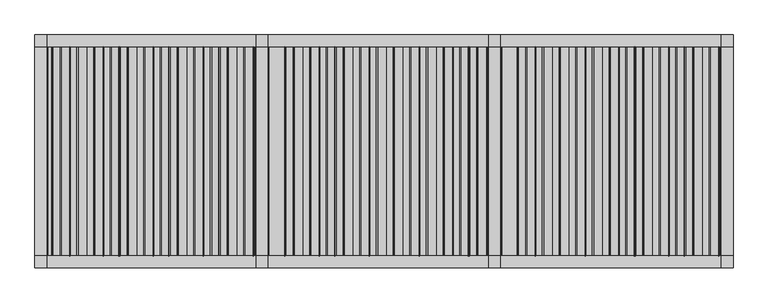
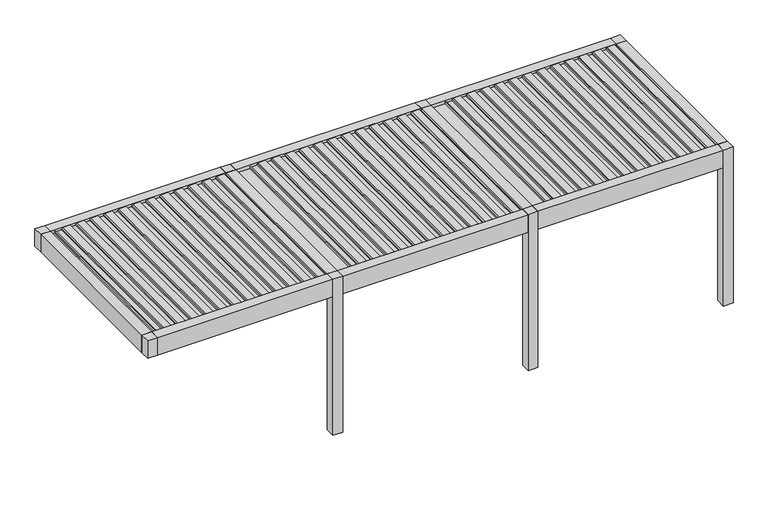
"""IFC4 building model written with IfcOpenShell, lengths in millimetres: proxy geometry, Renson_Amani_Patio_Cover : Renson_Amani_Patio_Cover."""

from ifc_helpers import new_model, si_unit, point, frame, frame_2d, origin, origin_with_axes, place, context, project, spatial, polyline, circle_curve, trimmed, segment, composite_curve, outline, extrude, source, transform, mapped, element, save


def generic_models_6e23cace(model_context):
    return source(origin(), model_context, "Body", "SweptSolid", [
        extrude(outline(composite_curve([segment(polyline([(2483.35, 7073.7289238), (2511.01198, 7076.1490335), (2512.3970364, 7104.984284), (2531.8911096, 7101.5469529), (2526.6075693, 6991.549838)]), True, "CONTINUOUS"), segment(trimmed(circle_curve(frame_2d((2511.6248435, 6992.26951)), 15.0), [point((2526.6075693, 6991.549838))], [point((2514.2295662, 6977.4973937))], False, "CARTESIAN"), True, "CONTINUOUS"), segment(polyline([(2514.2295662, 6977.4973937), (2495.0, 6974.1067023), (2495.0, 6886.3709263), (2512.0788237, 6883.3594689), (2511.3450182, 6868.0824984), (2483.35, 6865.6332517), (2483.35, 7073.7289238)]), True, "CONTINUOUS")], self_intersect=False)), frame((0.0, -1350.0, 0.0), z_axis=(0.0, 1.0, 0.0), x_axis=(0.0, 0.0, 1.0)), (0.0, 0.0, 1.0), 2700.0),
        extrude(outline(composite_curve([segment(polyline([(2483.35, 6858.7132078), (2511.01198, 6861.1333174), (2512.3970364, 6889.9685679), (2531.8911096, 6886.5312368), (2526.6075693, 6776.534122)]), True, "CONTINUOUS"), segment(trimmed(circle_curve(frame_2d((2511.6248435, 6777.2537939)), 15.0), [point((2526.6075693, 6776.534122))], [point((2514.2295662, 6762.4816776))], False, "CARTESIAN"), True, "CONTINUOUS"), segment(polyline([(2514.2295662, 6762.4816776), (2495.0, 6759.0909863), (2495.0, 6671.3552102), (2512.0788237, 6668.3437528), (2511.3450182, 6653.0667824), (2483.35, 6650.6175356), (2483.35, 6858.7132078)]), True, "CONTINUOUS")], self_intersect=False)), frame((0.0, -1350.0, 0.0), z_axis=(0.0, 1.0, 0.0), x_axis=(0.0, 0.0, 1.0)), (0.0, 0.0, 1.0), 2700.0),
        extrude(outline(composite_curve([segment(polyline([(2483.35, 6643.6974917), (2511.01198, 6646.1176014), (2512.3970364, 6674.9528519), (2531.8911096, 6671.5155208), (2526.6075693, 6561.5184059)]), True, "CONTINUOUS"), segment(trimmed(circle_curve(frame_2d((2511.6248435, 6562.2380779)), 15.0), [point((2526.6075693, 6561.5184059))], [point((2514.2295662, 6547.4659616))], False, "CARTESIAN"), True, "CONTINUOUS"), segment(polyline([(2514.2295662, 6547.4659616), (2495.0, 6544.0752702), (2495.0, 6456.3394942), (2512.0788237, 6453.3280368), (2511.3450182, 6438.0510663), (2483.35, 6435.6018196), (2483.35, 6643.6974917)]), True, "CONTINUOUS")], self_intersect=False)), frame((0.0, -1350.0, 0.0), z_axis=(0.0, 1.0, 0.0), x_axis=(0.0, 0.0, 1.0)), (0.0, 0.0, 1.0), 2700.0),
        extrude(outline(composite_curve([segment(polyline([(2483.35, 6428.6817757), (2511.01198, 6431.1018854), (2512.3970364, 6459.9371358), (2531.8911096, 6456.4998047), (2526.6075693, 6346.5026899)]), True, "CONTINUOUS"), segment(trimmed(circle_curve(frame_2d((2511.6248435, 6347.2223618)), 15.0), [point((2526.6075693, 6346.5026899))], [point((2514.2295662, 6332.4502455))], False, "CARTESIAN"), True, "CONTINUOUS"), segment(polyline([(2514.2295662, 6332.4502455), (2495.0, 6329.0595542), (2495.0, 6241.3237782), (2512.0788237, 6238.3123207), (2511.3450182, 6223.0353503), (2483.35, 6220.5861035), (2483.35, 6428.6817757)]), True, "CONTINUOUS")], self_intersect=False)), frame((0.0, -1350.0, 0.0), z_axis=(0.0, 1.0, 0.0), x_axis=(0.0, 0.0, 1.0)), (0.0, 0.0, 1.0), 2700.0),
        extrude(outline(composite_curve([segment(polyline([(2483.35, 6213.6660597), (2511.01198, 6216.0861693), (2512.3970364, 6244.9214198), (2531.8911096, 6241.4840887), (2526.6075693, 6131.4869738)]), True, "CONTINUOUS"), segment(trimmed(circle_curve(frame_2d((2511.6248435, 6132.2066458)), 15.0), [point((2526.6075693, 6131.4869738))], [point((2514.2295662, 6117.4345295))], False, "CARTESIAN"), True, "CONTINUOUS"), segment(polyline([(2514.2295662, 6117.4345295), (2495.0, 6114.0438381), (2495.0, 6026.3080621), (2512.0788237, 6023.2966047), (2511.3450182, 6008.0196342), (2483.35, 6005.5703875), (2483.35, 6213.6660597)]), True, "CONTINUOUS")], self_intersect=False)), frame((0.0, -1350.0, 0.0), z_axis=(0.0, 1.0, 0.0), x_axis=(0.0, 0.0, 1.0)), (0.0, 0.0, 1.0), 2700.0),
        extrude(outline(composite_curve([segment(polyline([(2483.35, 5998.6503436), (2511.01198, 6001.0704533), (2512.3970364, 6029.9057037), (2531.8911096, 6026.4683726), (2526.6075693, 5916.4712578)]), True, "CONTINUOUS"), segment(trimmed(circle_curve(frame_2d((2511.6248435, 5917.1909297)), 15.0), [point((2526.6075693, 5916.4712578))], [point((2514.2295662, 5902.4188134))], False, "CARTESIAN"), True, "CONTINUOUS"), segment(polyline([(2514.2295662, 5902.4188134), (2495.0, 5899.0281221), (2495.0, 5811.2923461), (2512.0788237, 5808.2808886), (2511.3450182, 5793.0039182), (2483.35, 5790.5546714), (2483.35, 5998.6503436)]), True, "CONTINUOUS")], self_intersect=False)), frame((0.0, -1350.0, 0.0), z_axis=(0.0, 1.0, 0.0), x_axis=(0.0, 0.0, 1.0)), (0.0, 0.0, 1.0), 2700.0),
        extrude(outline(composite_curve([segment(polyline([(2483.35, 5783.6346276), (2511.01198, 5786.0547372), (2512.3970364, 5814.8899877), (2531.8911096, 5811.4526566), (2526.6075693, 5701.4555418)]), True, "CONTINUOUS"), segment(trimmed(circle_curve(frame_2d((2511.6248435, 5702.1752137)), 15.0), [point((2526.6075693, 5701.4555418))], [point((2514.2295662, 5687.4030974))], False, "CARTESIAN"), True, "CONTINUOUS"), segment(polyline([(2514.2295662, 5687.4030974), (2495.0, 5684.012406), (2495.0, 5596.27663), (2512.0788237, 5593.2651726), (2511.3450182, 5577.9882021), (2483.35, 5575.5389554), (2483.35, 5783.6346276)]), True, "CONTINUOUS")], self_intersect=False)), frame((0.0, -1350.0, 0.0), z_axis=(0.0, 1.0, 0.0), x_axis=(0.0, 0.0, 1.0)), (0.0, 0.0, 1.0), 2700.0),
        extrude(outline(composite_curve([segment(polyline([(2483.35, 5568.6189115), (2511.01198, 5571.0390212), (2512.3970364, 5599.8742716), (2531.8911096, 5596.4369406), (2526.6075693, 5486.4398257)]), True, "CONTINUOUS"), segment(trimmed(circle_curve(frame_2d((2511.6248435, 5487.1594976)), 15.0), [point((2526.6075693, 5486.4398257))], [point((2514.2295662, 5472.3873813))], False, "CARTESIAN"), True, "CONTINUOUS"), segment(polyline([(2514.2295662, 5472.3873813), (2495.0, 5468.99669), (2495.0, 5381.260914), (2512.0788237, 5378.2494566), (2511.3450182, 5362.9724861), (2483.35, 5360.5232394), (2483.35, 5568.6189115)]), True, "CONTINUOUS")], self_intersect=False)), frame((0.0, -1350.0, 0.0), z_axis=(0.0, 1.0, 0.0), x_axis=(0.0, 0.0, 1.0)), (0.0, 0.0, 1.0), 2700.0),
        extrude(outline(composite_curve([segment(polyline([(2483.35, 5353.6031955), (2511.01198, 5356.0233051), (2512.3970364, 5384.8585556), (2531.8911096, 5381.4212245), (2526.6075693, 5271.4241097)]), True, "CONTINUOUS"), segment(trimmed(circle_curve(frame_2d((2511.6248435, 5272.1437816)), 15.0), [point((2526.6075693, 5271.4241097))], [point((2514.2295662, 5257.3716653))], False, "CARTESIAN"), True, "CONTINUOUS"), segment(polyline([(2514.2295662, 5257.3716653), (2495.0, 5253.980974), (2495.0, 5166.2451979), (2512.0788237, 5163.2337405), (2511.3450182, 5147.95677), (2483.35, 5145.5075233), (2483.35, 5353.6031955)]), True, "CONTINUOUS")], self_intersect=False)), frame((0.0, -1350.0, 0.0), z_axis=(0.0, 1.0, 0.0), x_axis=(0.0, 0.0, 1.0)), (0.0, 0.0, 1.0), 2700.0),
        extrude(outline(composite_curve([segment(polyline([(2483.35, 5138.5874794), (2511.01198, 5141.0075891), (2512.3970364, 5169.8428395), (2531.8911096, 5166.4055085), (2526.6075693, 5056.4083936)]), True, "CONTINUOUS"), segment(trimmed(circle_curve(frame_2d((2511.6248435, 5057.1280655)), 15.0), [point((2526.6075693, 5056.4083936))], [point((2514.2295662, 5042.3559492))], False, "CARTESIAN"), True, "CONTINUOUS"), segment(polyline([(2514.2295662, 5042.3559492), (2495.0, 5038.9652579), (2495.0, 4951.2294819), (2512.0788237, 4948.2180245), (2511.3450182, 4932.941054), (2483.35, 4930.4918073), (2483.35, 5138.5874794)]), True, "CONTINUOUS")], self_intersect=False)), frame((0.0, -1350.0, 0.0), z_axis=(0.0, 1.0, 0.0), x_axis=(0.0, 0.0, 1.0)), (0.0, 0.0, 1.0), 2700.0),
        extrude(outline(composite_curve([segment(polyline([(2483.35, 7288.7446399), (2511.01198, 7291.1647495), (2512.3970364, 7320.0), (2531.8911096, 7316.5626689), (2526.6075693, 7206.5655541)]), True, "CONTINUOUS"), segment(trimmed(circle_curve(frame_2d((2511.6248435, 7207.285226)), 15.0), [point((2526.6075693, 7206.5655541))], [point((2514.2295662, 7192.5131097))], False, "CARTESIAN"), True, "CONTINUOUS"), segment(polyline([(2514.2295662, 7192.5131097), (2495.0, 7189.1224184), (2495.0, 7101.3866423), (2512.0788237, 7098.3751849), (2511.3450182, 7083.0982144), (2483.35, 7080.6489677), (2483.35, 7288.7446399)]), True, "CONTINUOUS")], self_intersect=False)), frame((0.0, -1350.0, 0.0), z_axis=(0.0, 1.0, 0.0), x_axis=(0.0, 0.0, 1.0)), (0.0, 0.0, 1.0), 2700.0),
        extrude(outline(composite_curve([segment(polyline([(2483.35, 4923.5717634), (2511.01198, 4925.991873), (2512.3970364, 4954.8271235), (2531.8911096, 4951.3897924), (2526.6075693, 4841.3926776)]), True, "CONTINUOUS"), segment(trimmed(circle_curve(frame_2d((2511.6248435, 4842.1123495)), 15.0), [point((2526.6075693, 4841.3926776))], [point((2514.2295662, 4827.3402332))], False, "CARTESIAN"), True, "CONTINUOUS"), segment(polyline([(2514.2295662, 4827.3402332), (2495.0, 4823.9495419), (2495.0, 4736.2137658), (2512.0788237, 4733.2023084), (2511.3450182, 4717.9253379), (2483.35, 4715.4760912), (2483.35, 4923.5717634)]), True, "CONTINUOUS")], self_intersect=False)), frame((0.0, -1350.0, 0.0), z_axis=(0.0, 1.0, 0.0), x_axis=(0.0, 0.0, 1.0)), (0.0, 0.0, 1.0), 2700.0),
        extrude(outline(composite_curve([segment(polyline([(2483.35, 4073.7289238), (2511.01198, 4076.1490335), (2512.3970364, 4104.984284), (2531.8911096, 4101.5469529), (2526.6075693, 3991.549838)]), True, "CONTINUOUS"), segment(trimmed(circle_curve(frame_2d((2511.6248435, 3992.26951)), 15.0), [point((2526.6075693, 3991.549838))], [point((2514.2295662, 3977.4973937))], False, "CARTESIAN"), True, "CONTINUOUS"), segment(polyline([(2514.2295662, 3977.4973937), (2495.0, 3974.1067023), (2495.0, 3886.3709263), (2512.0788237, 3883.3594689), (2511.3450182, 3868.0824984), (2483.35, 3865.6332517), (2483.35, 4073.7289238)]), True, "CONTINUOUS")], self_intersect=False)), frame((0.0, -1350.0, 0.0), z_axis=(0.0, 1.0, 0.0), x_axis=(0.0, 0.0, 1.0)), (0.0, 0.0, 1.0), 2700.0),
        extrude(outline(composite_curve([segment(polyline([(2483.35, 3858.7132078), (2511.01198, 3861.1333174), (2512.3970364, 3889.9685679), (2531.8911096, 3886.5312368), (2526.6075693, 3776.534122)]), True, "CONTINUOUS"), segment(trimmed(circle_curve(frame_2d((2511.6248435, 3777.2537939)), 15.0), [point((2526.6075693, 3776.534122))], [point((2514.2295662, 3762.4816776))], False, "CARTESIAN"), True, "CONTINUOUS"), segment(polyline([(2514.2295662, 3762.4816776), (2495.0, 3759.0909863), (2495.0, 3671.3552102), (2512.0788237, 3668.3437528), (2511.3450182, 3653.0667824), (2483.35, 3650.6175356), (2483.35, 3858.7132078)]), True, "CONTINUOUS")], self_intersect=False)), frame((0.0, -1350.0, 0.0), z_axis=(0.0, 1.0, 0.0), x_axis=(0.0, 0.0, 1.0)), (0.0, 0.0, 1.0), 2700.0),
        extrude(outline(composite_curve([segment(polyline([(2483.35, 3643.6974917), (2511.01198, 3646.1176014), (2512.3970364, 3674.9528519), (2531.8911096, 3671.5155208), (2526.6075693, 3561.5184059)]), True, "CONTINUOUS"), segment(trimmed(circle_curve(frame_2d((2511.6248435, 3562.2380779)), 15.0), [point((2526.6075693, 3561.5184059))], [point((2514.2295662, 3547.4659616))], False, "CARTESIAN"), True, "CONTINUOUS"), segment(polyline([(2514.2295662, 3547.4659616), (2495.0, 3544.0752702), (2495.0, 3456.3394942), (2512.0788237, 3453.3280368), (2511.3450182, 3438.0510663), (2483.35, 3435.6018196), (2483.35, 3643.6974917)]), True, "CONTINUOUS")], self_intersect=False)), frame((0.0, -1350.0, 0.0), z_axis=(0.0, 1.0, 0.0), x_axis=(0.0, 0.0, 1.0)), (0.0, 0.0, 1.0), 2700.0),
        extrude(outline(composite_curve([segment(polyline([(2483.35, 3428.6817757), (2511.01198, 3431.1018854), (2512.3970364, 3459.9371358), (2531.8911096, 3456.4998047), (2526.6075693, 3346.5026899)]), True, "CONTINUOUS"), segment(trimmed(circle_curve(frame_2d((2511.6248435, 3347.2223618)), 15.0), [point((2526.6075693, 3346.5026899))], [point((2514.2295662, 3332.4502455))], False, "CARTESIAN"), True, "CONTINUOUS"), segment(polyline([(2514.2295662, 3332.4502455), (2495.0, 3329.0595542), (2495.0, 3241.3237782), (2512.0788237, 3238.3123207), (2511.3450182, 3223.0353503), (2483.35, 3220.5861035), (2483.35, 3428.6817757)]), True, "CONTINUOUS")], self_intersect=False)), frame((0.0, -1350.0, 0.0), z_axis=(0.0, 1.0, 0.0), x_axis=(0.0, 0.0, 1.0)), (0.0, 0.0, 1.0), 2700.0),
        extrude(outline(composite_curve([segment(polyline([(2483.35, 3213.6660597), (2511.01198, 3216.0861693), (2512.3970364, 3244.9214198), (2531.8911096, 3241.4840887), (2526.6075693, 3131.4869738)]), True, "CONTINUOUS"), segment(trimmed(circle_curve(frame_2d((2511.6248435, 3132.2066458)), 15.0), [point((2526.6075693, 3131.4869738))], [point((2514.2295662, 3117.4345295))], False, "CARTESIAN"), True, "CONTINUOUS"), segment(polyline([(2514.2295662, 3117.4345295), (2495.0, 3114.0438381), (2495.0, 3026.3080621), (2512.0788237, 3023.2966047), (2511.3450182, 3008.0196342), (2483.35, 3005.5703875), (2483.35, 3213.6660597)]), True, "CONTINUOUS")], self_intersect=False)), frame((0.0, -1350.0, 0.0), z_axis=(0.0, 1.0, 0.0), x_axis=(0.0, 0.0, 1.0)), (0.0, 0.0, 1.0), 2700.0),
        extrude(outline(composite_curve([segment(polyline([(2483.35, 2998.6503436), (2511.01198, 3001.0704533), (2512.3970364, 3029.9057037), (2531.8911096, 3026.4683726), (2526.6075693, 2916.4712578)]), True, "CONTINUOUS"), segment(trimmed(circle_curve(frame_2d((2511.6248435, 2917.1909297)), 15.0), [point((2526.6075693, 2916.4712578))], [point((2514.2295662, 2902.4188134))], False, "CARTESIAN"), True, "CONTINUOUS"), segment(polyline([(2514.2295662, 2902.4188134), (2495.0, 2899.0281221), (2495.0, 2811.2923461), (2512.0788237, 2808.2808886), (2511.3450182, 2793.0039182), (2483.35, 2790.5546714), (2483.35, 2998.6503436)]), True, "CONTINUOUS")], self_intersect=False)), frame((0.0, -1350.0, 0.0), z_axis=(0.0, 1.0, 0.0), x_axis=(0.0, 0.0, 1.0)), (0.0, 0.0, 1.0), 2700.0),
        extrude(outline(composite_curve([segment(polyline([(2483.35, 2783.6346276), (2511.01198, 2786.0547372), (2512.3970364, 2814.8899877), (2531.8911096, 2811.4526566), (2526.6075693, 2701.4555418)]), True, "CONTINUOUS"), segment(trimmed(circle_curve(frame_2d((2511.6248435, 2702.1752137)), 15.0), [point((2526.6075693, 2701.4555418))], [point((2514.2295662, 2687.4030974))], False, "CARTESIAN"), True, "CONTINUOUS"), segment(polyline([(2514.2295662, 2687.4030974), (2495.0, 2684.012406), (2495.0, 2596.27663), (2512.0788237, 2593.2651726), (2511.3450182, 2577.9882021), (2483.35, 2575.5389554), (2483.35, 2783.6346276)]), True, "CONTINUOUS")], self_intersect=False)), frame((0.0, -1350.0, 0.0), z_axis=(0.0, 1.0, 0.0), x_axis=(0.0, 0.0, 1.0)), (0.0, 0.0, 1.0), 2700.0),
        extrude(outline(composite_curve([segment(polyline([(2483.35, 2568.6189115), (2511.01198, 2571.0390212), (2512.3970364, 2599.8742716), (2531.8911096, 2596.4369406), (2526.6075693, 2486.4398257)]), True, "CONTINUOUS"), segment(trimmed(circle_curve(frame_2d((2511.6248435, 2487.1594976)), 15.0), [point((2526.6075693, 2486.4398257))], [point((2514.2295662, 2472.3873813))], False, "CARTESIAN"), True, "CONTINUOUS"), segment(polyline([(2514.2295662, 2472.3873813), (2495.0, 2468.99669), (2495.0, 2381.260914), (2512.0788237, 2378.2494566), (2511.3450182, 2362.9724861), (2483.35, 2360.5232394), (2483.35, 2568.6189115)]), True, "CONTINUOUS")], self_intersect=False)), frame((0.0, -1350.0, 0.0), z_axis=(0.0, 1.0, 0.0), x_axis=(0.0, 0.0, 1.0)), (0.0, 0.0, 1.0), 2700.0),
        extrude(outline(composite_curve([segment(polyline([(2483.35, 2353.6031955), (2511.01198, 2356.0233051), (2512.3970364, 2384.8585556), (2531.8911096, 2381.4212245), (2526.6075693, 2271.4241097)]), True, "CONTINUOUS"), segment(trimmed(circle_curve(frame_2d((2511.6248435, 2272.1437816)), 15.0), [point((2526.6075693, 2271.4241097))], [point((2514.2295662, 2257.3716653))], False, "CARTESIAN"), True, "CONTINUOUS"), segment(polyline([(2514.2295662, 2257.3716653), (2495.0, 2253.980974), (2495.0, 2166.2451979), (2512.0788237, 2163.2337405), (2511.3450182, 2147.95677), (2483.35, 2145.5075233), (2483.35, 2353.6031955)]), True, "CONTINUOUS")], self_intersect=False)), frame((0.0, -1350.0, 0.0), z_axis=(0.0, 1.0, 0.0), x_axis=(0.0, 0.0, 1.0)), (0.0, 0.0, 1.0), 2700.0),
        extrude(outline(composite_curve([segment(polyline([(2483.35, 2138.5874794), (2511.01198, 2141.0075891), (2512.3970364, 2169.8428395), (2531.8911096, 2166.4055085), (2526.6075693, 2056.4083936)]), True, "CONTINUOUS"), segment(trimmed(circle_curve(frame_2d((2511.6248435, 2057.1280655)), 15.0), [point((2526.6075693, 2056.4083936))], [point((2514.2295662, 2042.3559492))], False, "CARTESIAN"), True, "CONTINUOUS"), segment(polyline([(2514.2295662, 2042.3559492), (2495.0, 2038.9652579), (2495.0, 1951.2294819), (2512.0788237, 1948.2180245), (2511.3450182, 1932.941054), (2483.35, 1930.4918073), (2483.35, 2138.5874794)]), True, "CONTINUOUS")], self_intersect=False)), frame((0.0, -1350.0, 0.0), z_axis=(0.0, 1.0, 0.0), x_axis=(0.0, 0.0, 1.0)), (0.0, 0.0, 1.0), 2700.0),
        extrude(outline(composite_curve([segment(polyline([(2483.35, 4288.7446399), (2511.01198, 4291.1647495), (2512.3970364, 4320.0), (2531.8911096, 4316.5626689), (2526.6075693, 4206.5655541)]), True, "CONTINUOUS"), segment(trimmed(circle_curve(frame_2d((2511.6248435, 4207.285226)), 15.0), [point((2526.6075693, 4206.5655541))], [point((2514.2295662, 4192.5131097))], False, "CARTESIAN"), True, "CONTINUOUS"), segment(polyline([(2514.2295662, 4192.5131097), (2495.0, 4189.1224184), (2495.0, 4101.3866423), (2512.0788237, 4098.3751849), (2511.3450182, 4083.0982144), (2483.35, 4080.6489677), (2483.35, 4288.7446399)]), True, "CONTINUOUS")], self_intersect=False)), frame((0.0, -1350.0, 0.0), z_axis=(0.0, 1.0, 0.0), x_axis=(0.0, 0.0, 1.0)), (0.0, 0.0, 1.0), 2700.0),
        extrude(outline(composite_curve([segment(polyline([(2483.35, 1923.5717634), (2511.01198, 1925.991873), (2512.3970364, 1954.8271235), (2531.8911096, 1951.3897924), (2526.6075693, 1841.3926776)]), True, "CONTINUOUS"), segment(trimmed(circle_curve(frame_2d((2511.6248435, 1842.1123495)), 15.0), [point((2526.6075693, 1841.3926776))], [point((2514.2295662, 1827.3402332))], False, "CARTESIAN"), True, "CONTINUOUS"), segment(polyline([(2514.2295662, 1827.3402332), (2495.0, 1823.9495419), (2495.0, 1736.2137658), (2512.0788237, 1733.2023084), (2511.3450182, 1717.9253379), (2483.35, 1715.4760912), (2483.35, 1923.5717634)]), True, "CONTINUOUS")], self_intersect=False)), frame((0.0, -1350.0, 0.0), z_axis=(0.0, 1.0, 0.0), x_axis=(0.0, 0.0, 1.0)), (0.0, 0.0, 1.0), 2700.0),
        extrude(outline(composite_curve([segment(polyline([(2483.35, 1073.7289238), (2511.01198, 1076.1490335), (2512.3970364, 1104.984284), (2531.8911096, 1101.5469529), (2526.6075693, 991.549838)]), True, "CONTINUOUS"), segment(trimmed(circle_curve(frame_2d((2511.6248435, 992.26951)), 15.0), [point((2526.6075693, 991.549838))], [point((2514.2295662, 977.4973937))], False, "CARTESIAN"), True, "CONTINUOUS"), segment(polyline([(2514.2295662, 977.4973937), (2495.0, 974.1067023), (2495.0, 886.3709263), (2512.0788237, 883.3594689), (2511.3450182, 868.0824984), (2483.35, 865.6332517), (2483.35, 1073.7289238)]), True, "CONTINUOUS")], self_intersect=False)), frame((0.0, -1350.0, 0.0), z_axis=(0.0, 1.0, 0.0), x_axis=(0.0, 0.0, 1.0)), (0.0, 0.0, 1.0), 2700.0),
        extrude(outline(composite_curve([segment(polyline([(2483.35, 858.7132078), (2511.01198, 861.1333174), (2512.3970364, 889.9685679), (2531.8911096, 886.5312368), (2526.6075693, 776.534122)]), True, "CONTINUOUS"), segment(trimmed(circle_curve(frame_2d((2511.6248435, 777.2537939)), 15.0), [point((2526.6075693, 776.534122))], [point((2514.2295662, 762.4816776))], False, "CARTESIAN"), True, "CONTINUOUS"), segment(polyline([(2514.2295662, 762.4816776), (2495.0, 759.0909863), (2495.0, 671.3552102), (2512.0788237, 668.3437528), (2511.3450182, 653.0667824), (2483.35, 650.6175356), (2483.35, 858.7132078)]), True, "CONTINUOUS")], self_intersect=False)), frame((0.0, -1350.0, 0.0), z_axis=(0.0, 1.0, 0.0), x_axis=(0.0, 0.0, 1.0)), (0.0, 0.0, 1.0), 2700.0),
        extrude(outline(composite_curve([segment(polyline([(2483.35, 643.6974917), (2511.01198, 646.1176014), (2512.3970364, 674.9528519), (2531.8911096, 671.5155208), (2526.6075693, 561.5184059)]), True, "CONTINUOUS"), segment(trimmed(circle_curve(frame_2d((2511.6248435, 562.2380779)), 15.0), [point((2526.6075693, 561.5184059))], [point((2514.2295662, 547.4659616))], False, "CARTESIAN"), True, "CONTINUOUS"), segment(polyline([(2514.2295662, 547.4659616), (2495.0, 544.0752702), (2495.0, 456.3394942), (2512.0788237, 453.3280368), (2511.3450182, 438.0510663), (2483.35, 435.6018196), (2483.35, 643.6974917)]), True, "CONTINUOUS")], self_intersect=False)), frame((0.0, -1350.0, 0.0), z_axis=(0.0, 1.0, 0.0), x_axis=(0.0, 0.0, 1.0)), (0.0, 0.0, 1.0), 2700.0),
        extrude(outline(composite_curve([segment(polyline([(2483.35, 428.6817757), (2511.01198, 431.1018854), (2512.3970364, 459.9371358), (2531.8911096, 456.4998047), (2526.6075693, 346.5026899)]), True, "CONTINUOUS"), segment(trimmed(circle_curve(frame_2d((2511.6248435, 347.2223618)), 15.0), [point((2526.6075693, 346.5026899))], [point((2514.2295662, 332.4502455))], False, "CARTESIAN"), True, "CONTINUOUS"), segment(polyline([(2514.2295662, 332.4502455), (2495.0, 329.0595542), (2495.0, 241.3237782), (2512.0788237, 238.3123207), (2511.3450182, 223.0353503), (2483.35, 220.5861035), (2483.35, 428.6817757)]), True, "CONTINUOUS")], self_intersect=False)), frame((0.0, -1350.0, 0.0), z_axis=(0.0, 1.0, 0.0), x_axis=(0.0, 0.0, 1.0)), (0.0, 0.0, 1.0), 2700.0),
        extrude(outline(composite_curve([segment(polyline([(2483.35, 213.6660597), (2511.01198, 216.0861693), (2512.3970364, 244.9214198), (2531.8911096, 241.4840887), (2526.6075693, 131.4869738)]), True, "CONTINUOUS"), segment(trimmed(circle_curve(frame_2d((2511.6248435, 132.2066458)), 15.0), [point((2526.6075693, 131.4869738))], [point((2514.2295662, 117.4345295))], False, "CARTESIAN"), True, "CONTINUOUS"), segment(polyline([(2514.2295662, 117.4345295), (2495.0, 114.0438381), (2495.0, 26.3080621), (2512.0788237, 23.2966047), (2511.3450182, 8.0196342), (2483.35, 5.5703875), (2483.35, 213.6660597)]), True, "CONTINUOUS")], self_intersect=False)), frame((0.0, -1350.0, 0.0), z_axis=(0.0, 1.0, 0.0), x_axis=(0.0, 0.0, 1.0)), (0.0, 0.0, 1.0), 2700.0),
        extrude(outline(composite_curve([segment(polyline([(2483.35, -1.3496564), (2511.01198, 1.0704533), (2512.3970364, 29.9057037), (2531.8911096, 26.4683726), (2526.6075693, -83.5287422)]), True, "CONTINUOUS"), segment(trimmed(circle_curve(frame_2d((2511.6248435, -82.8090703)), 15.0), [point((2526.6075693, -83.5287422))], [point((2514.2295662, -97.5811866))], False, "CARTESIAN"), True, "CONTINUOUS"), segment(polyline([(2514.2295662, -97.5811866), (2495.0, -100.9718779), (2495.0, -188.7076539), (2512.0788237, -191.7191114), (2511.3450182, -206.9960818), (2483.35, -209.4453286), (2483.35, -1.3496564)]), True, "CONTINUOUS")], self_intersect=False)), frame((0.0, -1350.0, 0.0), z_axis=(0.0, 1.0, 0.0), x_axis=(0.0, 0.0, 1.0)), (0.0, 0.0, 1.0), 2700.0),
        extrude(outline(composite_curve([segment(polyline([(2483.35, -216.3653724), (2511.01198, -213.9452628), (2512.3970364, -185.1100123), (2531.8911096, -188.5473434), (2526.6075693, -298.5444582)]), True, "CONTINUOUS"), segment(trimmed(circle_curve(frame_2d((2511.6248435, -297.8247863)), 15.0), [point((2526.6075693, -298.5444582))], [point((2514.2295662, -312.5969026))], False, "CARTESIAN"), True, "CONTINUOUS"), segment(polyline([(2514.2295662, -312.5969026), (2495.0, -315.987594), (2495.0, -403.72337), (2512.0788237, -406.7348274), (2511.3450182, -422.0117979), (2483.35, -424.4610446), (2483.35, -216.3653724)]), True, "CONTINUOUS")], self_intersect=False)), frame((0.0, -1350.0, 0.0), z_axis=(0.0, 1.0, 0.0), x_axis=(0.0, 0.0, 1.0)), (0.0, 0.0, 1.0), 2700.0),
        extrude(outline(composite_curve([segment(polyline([(2483.35, -431.3810885), (2511.01198, -428.9609788), (2512.3970364, -400.1257284), (2531.8911096, -403.5630594), (2526.6075693, -513.5601743)]), True, "CONTINUOUS"), segment(trimmed(circle_curve(frame_2d((2511.6248435, -512.8405024)), 15.0), [point((2526.6075693, -513.5601743))], [point((2514.2295662, -527.6126187))], False, "CARTESIAN"), True, "CONTINUOUS"), segment(polyline([(2514.2295662, -527.6126187), (2495.0, -531.00331), (2495.0, -618.739086), (2512.0788237, -621.7505434), (2511.3450182, -637.0275139), (2483.35, -639.4767606), (2483.35, -431.3810885)]), True, "CONTINUOUS")], self_intersect=False)), frame((0.0, -1350.0, 0.0), z_axis=(0.0, 1.0, 0.0), x_axis=(0.0, 0.0, 1.0)), (0.0, 0.0, 1.0), 2700.0),
        extrude(outline(composite_curve([segment(polyline([(2483.35, -646.3968045), (2511.01198, -643.9766949), (2512.3970364, -615.1414444), (2531.8911096, -618.5787755), (2526.6075693, -728.5758903)]), True, "CONTINUOUS"), segment(trimmed(circle_curve(frame_2d((2511.6248435, -727.8562184)), 15.0), [point((2526.6075693, -728.5758903))], [point((2514.2295662, -742.6283347))], False, "CARTESIAN"), True, "CONTINUOUS"), segment(polyline([(2514.2295662, -742.6283347), (2495.0, -746.019026), (2495.0, -833.7548021), (2512.0788237, -836.7662595), (2511.3450182, -852.04323), (2483.35, -854.4924767), (2483.35, -646.3968045)]), True, "CONTINUOUS")], self_intersect=False)), frame((0.0, -1350.0, 0.0), z_axis=(0.0, 1.0, 0.0), x_axis=(0.0, 0.0, 1.0)), (0.0, 0.0, 1.0), 2700.0),
        extrude(outline(composite_curve([segment(polyline([(2483.35, -861.4125206), (2511.01198, -858.9924109), (2512.3970364, -830.1571605), (2531.8911096, -833.5944915), (2526.6075693, -943.5916064)]), True, "CONTINUOUS"), segment(trimmed(circle_curve(frame_2d((2511.6248435, -942.8719345)), 15.0), [point((2526.6075693, -943.5916064))], [point((2514.2295662, -957.6440508))], False, "CARTESIAN"), True, "CONTINUOUS"), segment(polyline([(2514.2295662, -957.6440508), (2495.0, -961.0347421), (2495.0, -1048.7705181), (2512.0788237, -1051.7819755), (2511.3450182, -1067.058946), (2483.35, -1069.5081927), (2483.35, -861.4125206)]), True, "CONTINUOUS")], self_intersect=False)), frame((0.0, -1350.0, 0.0), z_axis=(0.0, 1.0, 0.0), x_axis=(0.0, 0.0, 1.0)), (0.0, 0.0, 1.0), 2700.0),
        extrude(outline(composite_curve([segment(polyline([(2483.35, 1288.7446399), (2511.01198, 1291.1647495), (2512.3970364, 1320.0), (2531.8911096, 1316.5626689), (2526.6075693, 1206.5655541)]), True, "CONTINUOUS"), segment(trimmed(circle_curve(frame_2d((2511.6248435, 1207.285226)), 15.0), [point((2526.6075693, 1206.5655541))], [point((2514.2295662, 1192.5131097))], False, "CARTESIAN"), True, "CONTINUOUS"), segment(polyline([(2514.2295662, 1192.5131097), (2495.0, 1189.1224184), (2495.0, 1101.3866423), (2512.0788237, 1098.3751849), (2511.3450182, 1083.0982144), (2483.35, 1080.6489677), (2483.35, 1288.7446399)]), True, "CONTINUOUS")], self_intersect=False)), frame((0.0, -1350.0, 0.0), z_axis=(0.0, 1.0, 0.0), x_axis=(0.0, 0.0, 1.0)), (0.0, 0.0, 1.0), 2700.0),
        extrude(outline(composite_curve([segment(polyline([(2483.35, -1076.4282366), (2511.01198, -1074.008127), (2512.3970364, -1045.1728765), (2531.8911096, -1048.6102076), (2526.6075693, -1158.6073224)]), True, "CONTINUOUS"), segment(trimmed(circle_curve(frame_2d((2511.6248435, -1157.8876505)), 15.0), [point((2526.6075693, -1158.6073224))], [point((2514.2295662, -1172.6597668))], False, "CARTESIAN"), True, "CONTINUOUS"), segment(polyline([(2514.2295662, -1172.6597668), (2495.0, -1176.0504581), (2495.0, -1263.7862342), (2512.0788237, -1266.7976916), (2511.3450182, -1282.0746621), (2483.35, -1284.5239088), (2483.35, -1076.4282366)]), True, "CONTINUOUS")], self_intersect=False)), frame((0.0, -1350.0, 0.0), z_axis=(0.0, 1.0, 0.0), x_axis=(0.0, 0.0, 1.0)), (0.0, 0.0, 1.0), 2700.0),
        extrude(outline(polyline([(7500.0, -1350.0), (7500.0, -1500.0), (7350.0, -1500.0), (7350.0, -1350.0), (7500.0, -1350.0)])), origin_with_axes(), (0.0, 0.0, 1.0), 2535.0),
        extrude(outline(polyline([(4500.0, 1500.0), (4500.0, 1350.0), (4350.0, 1350.0), (4350.0, 1500.0), (4500.0, 1500.0)])), origin_with_axes(), (0.0, 0.0, 1.0), 2535.0),
        extrude(outline(polyline([(7500.0, 1500.0), (7500.0, 1350.0), (7350.0, 1350.0), (7350.0, 1500.0), (7500.0, 1500.0)])), frame((0.0, 0.0, 2250.0), z_axis=(0.0, 0.0, 1.0), x_axis=(1.0, 0.0, 0.0)), (0.0, 0.0, 1.0), 285.0),
        extrude(outline(polyline([(-1350.0, 1500.0), (-1350.0, 1350.0), (-1500.0, 1350.0), (-1500.0, 1500.0), (-1350.0, 1500.0)])), frame((0.0, 0.0, 2250.0), z_axis=(0.0, 0.0, 1.0), x_axis=(1.0, 0.0, 0.0)), (0.0, 0.0, 1.0), 285.0),
        extrude(outline(polyline([(-1350.0, -1500.0), (-1500.0, -1500.0), (-1500.0, -1350.0), (-1350.0, -1350.0), (-1350.0, -1500.0)])), frame((0.0, 0.0, 2250.0), z_axis=(0.0, 0.0, 1.0), x_axis=(1.0, 0.0, 0.0)), (0.0, 0.0, 1.0), 285.0),
        extrude(outline(polyline([(4500.0, -1350.0), (4500.0, -1500.0), (4350.0, -1500.0), (4350.0, -1350.0), (4500.0, -1350.0)])), origin_with_axes(), (0.0, 0.0, 1.0), 2535.0),
        extrude(outline(polyline([(1500.0, -1350.0), (1500.0, -1500.0), (1350.0, -1500.0), (1350.0, -1350.0), (1500.0, -1350.0)])), origin_with_axes(), (0.0, 0.0, 1.0), 2535.0),
        extrude(outline(polyline([(1500.0, 1500.0), (1500.0, 1350.0), (1350.0, 1350.0), (1350.0, 1500.0), (1500.0, 1500.0)])), origin_with_axes(), (0.0, 0.0, 1.0), 2535.0),
        extrude(outline(polyline([(2466.6559373, 4500.0), (2466.6559373, 4710.0), (2480.6555802, 4713.7512887), (2480.6555802, 4520.4059055), (2496.400763, 4505.0), (2504.2449277, 4505.0), (2504.6823598, 4500.0), (2466.6559373, 4500.0)])), frame((0.0, -1350.0, 0.0), z_axis=(0.0, 1.0, 0.0), x_axis=(0.0, 0.0, 1.0)), (0.0, 0.0, 1.0), 2700.0),
        extrude(outline(polyline([(-1350.0, 2535.0), (-1350.0, 2322.0), (-1280.0000001, 2322.0), (-1280.0000001, 2250.0), (-1500.0, 2250.0), (-1500.0, 2535.0), (-1350.0, 2535.0)])), frame((4500.0, 0.0, 0.0), z_axis=(1.0, 0.0, 0.0), x_axis=(0.0, 1.0, 0.0)), (0.0, 0.0, 1.0), 2850.0),
        extrude(outline(polyline([(1500.0, 2250.0), (1280.0000001, 2250.0), (1280.0000001, 2322.0), (1350.0, 2322.0), (1350.0, 2535.0), (1500.0, 2535.0), (1500.0, 2250.0)])), frame((4500.0, 0.0, 0.0), z_axis=(1.0, 0.0, 0.0), x_axis=(0.0, 1.0, 0.0)), (0.0, 0.0, 1.0), 2850.0),
        extrude(outline(polyline([(2535.0, 7500.0), (2535.0, 7350.0), (2504.6823598, 7350.0), (2504.2449277, 7345.0), (2496.400763, 7345.0), (2480.6555802, 7329.2544156), (2480.6555802, 7319.9090324), (2466.6559373, 7323.6603211), (2466.6559373, 7350.0), (2250.0, 7350.0), (2250.0, 7500.0), (2535.0, 7500.0)])), frame((0.0, -1350.0, 0.0), z_axis=(0.0, 1.0, 0.0), x_axis=(0.0, 0.0, 1.0)), (0.0, 0.0, 1.0), 2700.0),
        extrude(outline(polyline([(2466.6559373, 1500.0), (2466.6559373, 1710.0), (2480.6555802, 1713.7512887), (2480.6555802, 1520.4059055), (2496.400763, 1505.0), (2504.2449277, 1505.0), (2504.6823598, 1500.0), (2466.6559373, 1500.0)])), frame((0.0, -1350.0, 0.0), z_axis=(0.0, 1.0, 0.0), x_axis=(0.0, 0.0, 1.0)), (0.0, 0.0, 1.0), 2700.0),
        extrude(outline(polyline([(-1350.0, 2535.0), (-1350.0, 2322.0), (-1280.0000001, 2322.0), (-1280.0000001, 2250.0), (-1500.0, 2250.0), (-1500.0, 2535.0), (-1350.0, 2535.0)])), frame((1500.0, 0.0, 0.0), z_axis=(1.0, 0.0, 0.0), x_axis=(0.0, 1.0, 0.0)), (0.0, 0.0, 1.0), 2850.0),
        extrude(outline(polyline([(1500.0, 2250.0), (1280.0000001, 2250.0), (1280.0000001, 2322.0), (1350.0, 2322.0), (1350.0, 2535.0), (1500.0, 2535.0), (1500.0, 2250.0)])), frame((1500.0, 0.0, 0.0), z_axis=(1.0, 0.0, 0.0), x_axis=(0.0, 1.0, 0.0)), (0.0, 0.0, 1.0), 2850.0),
        extrude(outline(polyline([(2535.0, 4500.0), (2535.0, 4350.0), (2504.6823598, 4350.0), (2504.2449277, 4345.0), (2496.400763, 4345.0), (2480.6555802, 4329.2544156), (2480.6555802, 4319.9090324), (2466.6559373, 4323.6603211), (2466.6559373, 4350.0), (2250.0, 4350.0), (2250.0, 4500.0), (2535.0, 4500.0)])), frame((0.0, -1350.0, 0.0), z_axis=(0.0, 1.0, 0.0), x_axis=(0.0, 0.0, 1.0)), (0.0, 0.0, 1.0), 2700.0),
        extrude(outline(polyline([(2466.6559373, -1350.0), (2466.6559373, -1290.0), (2480.6555802, -1286.2487113), (2480.6555802, -1329.5940945), (2496.400763, -1345.0), (2504.2449277, -1345.0), (2504.6823598, -1350.0), (2466.6559373, -1350.0)])), frame((0.0, -1350.0, 0.0), z_axis=(0.0, 1.0, 0.0), x_axis=(0.0, 0.0, 1.0)), (0.0, 0.0, 1.0), 2700.0),
        extrude(outline(polyline([(-1350.0, -1350.0), (-1500.0, -1350.0), (-1500.0, 1350.0), (-1350.0, 1350.0), (-1350.0, -1350.0)])), frame((0.0, 0.0, 2250.0), z_axis=(0.0, 0.0, 1.0), x_axis=(1.0, 0.0, 0.0)), (0.0, 0.0, 1.0), 285.0),
        extrude(outline(polyline([(2535.0, 1500.0), (2535.0, 1350.0), (2504.6904658, 1350.0), (2504.2449277, 1345.0), (2496.400763, 1345.0), (2480.6555802, 1329.2544156), (2480.6555802, 1319.9090324), (2466.6559373, 1323.6603211), (2466.6559373, 1350.0), (2250.0, 1350.0), (2250.0, 1500.0), (2535.0, 1500.0)])), frame((0.0, -1350.0, 0.0), z_axis=(0.0, 1.0, 0.0), x_axis=(0.0, 0.0, 1.0)), (0.0, 0.0, 1.0), 2700.0),
        extrude(outline(polyline([(-1350.0, 2535.0), (-1350.0, 2322.0), (-1280.0000001, 2322.0), (-1280.0000001, 2250.0), (-1500.0, 2250.0), (-1500.0, 2535.0), (-1350.0, 2535.0)])), frame((-1350.0, 0.0, 0.0), z_axis=(1.0, 0.0, 0.0), x_axis=(0.0, 1.0, 0.0)), (0.0, 0.0, 1.0), 2700.0),
        extrude(outline(polyline([(1500.0, 2250.0), (1280.0000001, 2250.0), (1280.0000001, 2322.0), (1350.0, 2322.0), (1350.0, 2535.0), (1500.0, 2535.0), (1500.0, 2250.0)])), frame((-1350.0, 0.0, 0.0), z_axis=(1.0, 0.0, 0.0), x_axis=(0.0, 1.0, 0.0)), (0.0, 0.0, 1.0), 2700.0),
    ])


if __name__ == "__main__":
    model = new_model("IFC4")
    model_context = context("Model", 3, world=origin())
    ifc_project = project(units=[si_unit("LENGTHUNIT", "METRE", prefix="MILLI")], contexts=[model_context])
    site = spatial("IfcSite", under=ifc_project)
    building = spatial("IfcBuilding", under=site)
    placement = place(None, origin())
    generic_models_shape = generic_models_6e23cace(model_context)
    element("IfcBuildingElementProxy", 1, Name="Renson_Amani_Patio_Cover : Renson_Amani_Patio_Cover", ObjectType="Renson_Amani_Patio_Cover : Renson_Amani_Patio_Cover", at=placement, inside=building, context=model_context, shape_type="MappedRepresentation", body=[
        mapped(generic_models_shape, transform((0.0, 0.0, 0.0), x_axis=(1.0, 0.0, 0.0), y_axis=(0.0, 1.0, 0.0), z_axis=(0.0, 0.0, 1.0))),
    ])
    save(model, "model.ifc")
